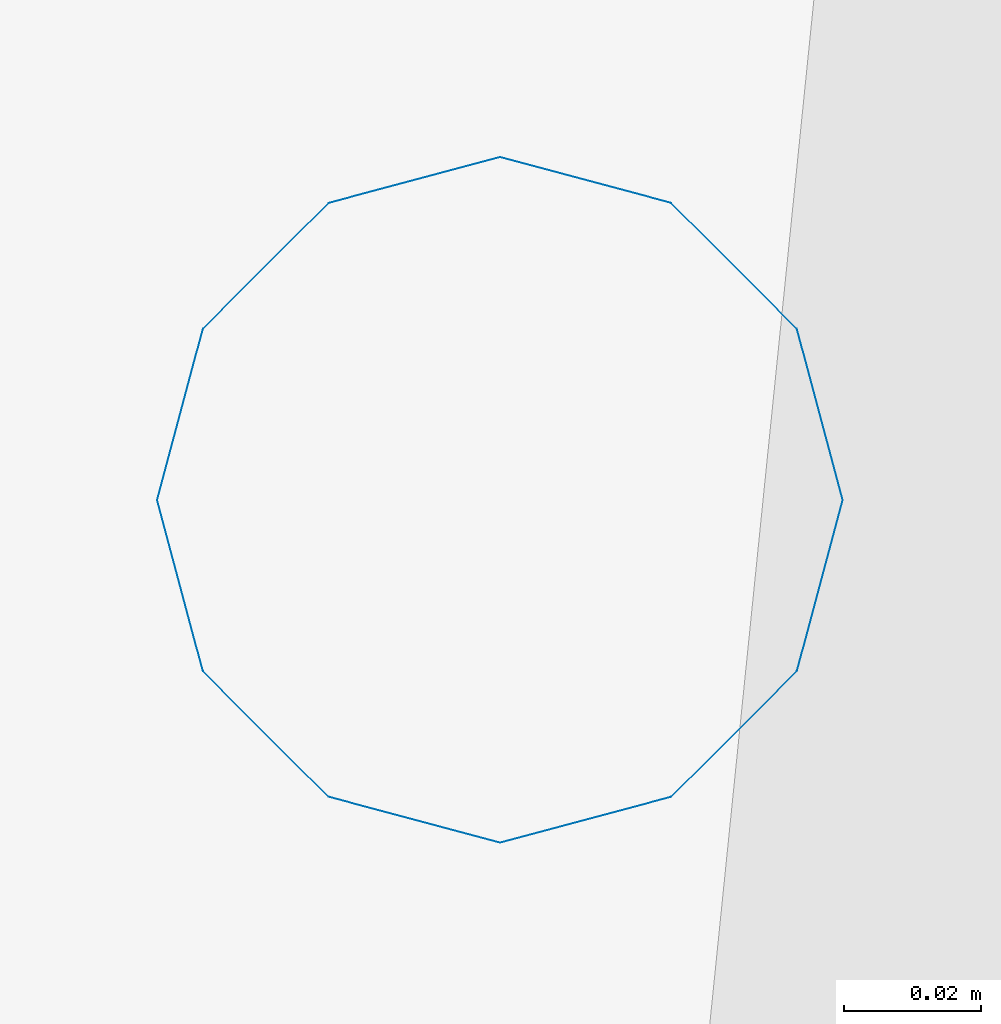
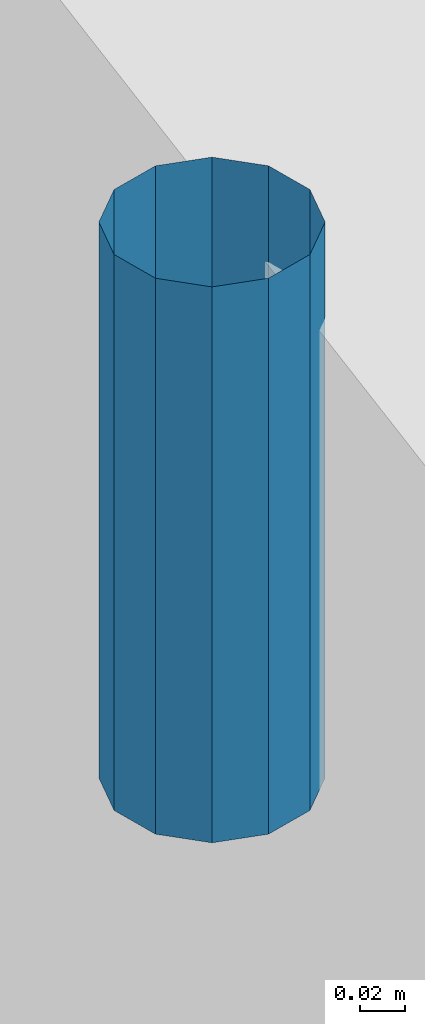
# One storey, part 28 of 41: 1 discrete accessory.
"""IFC2X3 building model written with IfcOpenShell, lengths in millimetres."""

from ifc_helpers import new_model, entity, si_unit, converted_unit, derived_unit, money_unit, direction, frame, origin_with_axes, place, context, subcontext, project, spatial, open_shell, surface_model, source, transform, mapped, type_object, element, save


model = new_model("IFC2X3")

# Units and contexts
model_context = context("Model", 3, precision=0.01, world=origin_with_axes(), true_north=direction((0.0, 1.0)))
body_context = subcontext(model_context, "Body", "Model", "MODEL_VIEW")
ifc_project = project(units=[si_unit("LENGTHUNIT", "METRE", prefix="MILLI"), si_unit("AREAUNIT", "SQUARE_METRE"), si_unit("VOLUMEUNIT", "CUBIC_METRE"), converted_unit("PLANEANGLEUNIT", "DEGREE", entity("IfcPlaneAngleMeasure", 0.0174532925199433), si_unit("PLANEANGLEUNIT", "RADIAN"), dimensions=[0, 0, 0, 0, 0, 0, 0]), money_unit("USD"), converted_unit("TIMEUNIT", "Year", entity("IfcTimeMeasure", 31557600.0), si_unit("TIMEUNIT", "SECOND"), dimensions=[0, 0, 1, 0, 0, 0, 0]), si_unit("MASSUNIT", "GRAM", prefix="KILO"), si_unit("THERMODYNAMICTEMPERATUREUNIT", "DEGREE_CELSIUS"), si_unit("LUMINOUSINTENSITYUNIT", "LUMEN"), si_unit("ENERGYUNIT", "JOULE", prefix="MEGA"), derived_unit("THERMALCONDUCTANCEUNIT", [(si_unit("POWERUNIT", "WATT"), 1), (si_unit("LENGTHUNIT", "METRE"), -1), (si_unit("THERMODYNAMICTEMPERATUREUNIT", "KELVIN"), -1)]), derived_unit("SPECIFICHEATCAPACITYUNIT", [(si_unit("ENERGYUNIT", "JOULE"), 1), (si_unit("MASSUNIT", "GRAM", prefix="KILO"), -1), (si_unit("THERMODYNAMICTEMPERATUREUNIT", "KELVIN"), -1)]), derived_unit("MASSDENSITYUNIT", [(si_unit("MASSUNIT", "GRAM", prefix="KILO"), 1), (si_unit("VOLUMEUNIT", "CUBIC_METRE"), -1)])], contexts=[model_context])

# Site, building, storey
site_placement = place(None, origin_with_axes())
site = spatial("IfcSite", under=ifc_project, at=site_placement, Name="Site", CompositionType="ELEMENT")
building_placement = place(site_placement, origin_with_axes())
building = spatial("IfcBuilding", under=site, at=building_placement, Name="Bâtiment", CompositionType="ELEMENT")
storey_placement = place(building_placement, origin_with_axes())
storey = spatial("IfcBuildingStorey", under=building, at=storey_placement, Name="sousol", CompositionType="ELEMENT", Elevation=0.0)

# Discrete accessory
discrete_accessory_type = type_object("IfcDiscreteAccessoryType", Name="Tuyau descente 27")
shared_shape = source(origin_with_axes(), body_context, "Body", "SurfaceModel", [
    surface_model("IfcShellBasedSurfaceModel", [(50.0, 0.0, 300.0), (43.30127018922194, -25.0, 300.0), (43.30127018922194, -25.0, 0.0), (50.0, 0.0, 0.0), (25.00000000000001, -43.30127018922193, 300.0), (25.00000000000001, -43.30127018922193, 0.0), (43.30127018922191, 25.00000000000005, 300.0), (43.30127018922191, 25.00000000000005, 0.0), (0.0, -50.0, 300.0), (0.0, -50.0, 0.0), (24.99999999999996, 43.30127018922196, 300.0), (24.99999999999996, 43.30127018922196, 0.0), (-24.99999999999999, -43.30127018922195, 300.0), (-24.99999999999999, -43.30127018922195, 0.0), (0.0, 50.0, 300.0), (0.0, 50.0, 0.0), (-43.30127018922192, -25.00000000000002, 300.0), (-43.30127018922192, -25.00000000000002, 0.0), (-25.00000000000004, 43.30127018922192, 300.0), (-25.00000000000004, 43.30127018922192, 0.0), (-50.0, 0.0, 300.0), (-50.0, 0.0, 0.0), (-43.30127018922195, 24.99999999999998, 300.0), (-43.30127018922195, 24.99999999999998, 0.0)], [open_shell([[[0, 1, 2, 3]], [[1, 4, 5, 2]], [[6, 0, 3, 7]], [[4, 8, 9, 5]], [[10, 6, 7, 11]], [[8, 12, 13, 9]], [[14, 10, 11, 15]], [[12, 16, 17, 13]], [[18, 14, 15, 19]], [[16, 20, 21, 17]], [[22, 18, 19, 23]], [[20, 22, 23, 21]]])]),
])
discrete_accessory_placement = place(storey_placement, frame((2238913.40214727, -614394.8934090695, 2700.0), z_axis=(0.0, 0.0, 1.0), x_axis=(1.0, 0.0, 0.0)))
element("IfcDiscreteAccessory", 1, at=discrete_accessory_placement, inside=storey, type_object=discrete_accessory_type, Name="Obj.-318", context=body_context, shape_type="MappedRepresentation", body=[
    mapped(shared_shape, transform((0.0, 0.0, 0.0))),
])

save(model, "model.ifc")
